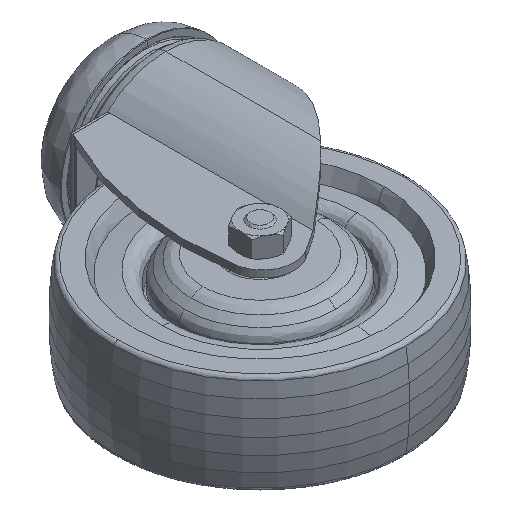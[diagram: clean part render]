
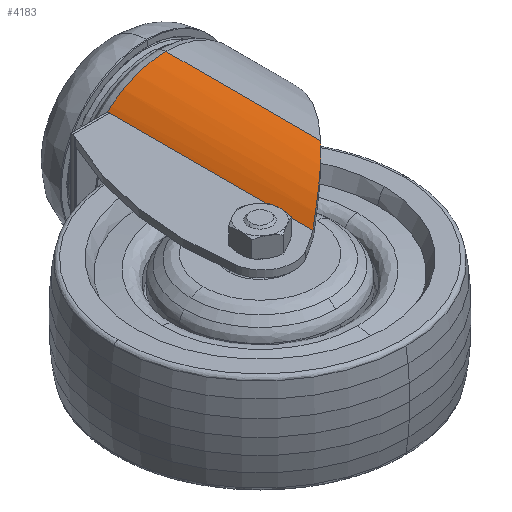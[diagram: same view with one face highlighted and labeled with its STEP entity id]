
A CAD part, isometric view. The second image highlights one B-rep face of the part: STEP entity #4183.
In plain terms, the highlighted cylindrical face has radius 21.5 mm (diameter 43 mm), a partial arc.
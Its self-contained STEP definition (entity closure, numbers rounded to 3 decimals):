
#308 = VECTOR ( 'NONE', #3678, 1000. ) ;
#364 = EDGE_CURVE ( 'NONE', #5400, #7994, #6333, .T. ) ;
#410 = AXIS2_PLACEMENT_3D ( 'NONE', #5564, #7864, #4532 ) ;
#458 = DIRECTION ( 'NONE',  ( 0., 1., 0. ) ) ;
#536 = EDGE_CURVE ( 'NONE', #3235, #2316, #9962, .T. ) ;
#539 = DIRECTION ( 'NONE',  ( 0., 0., 1. ) ) ;
#560 = CARTESIAN_POINT ( 'NONE',  ( 10.07, -12.795, -19.164 ) ) ;
#727 = CARTESIAN_POINT ( 'NONE',  ( 8.532, -13.99, -18.238 ) ) ;
#729 = CYLINDRICAL_SURFACE ( 'NONE', #3192, 21.5 ) ;
#775 = CARTESIAN_POINT ( 'NONE',  ( 5.85, -15.989, -16.273 ) ) ;
#835 = DIRECTION ( 'NONE',  ( 0., 1., 0. ) ) ;
#850 = CARTESIAN_POINT ( 'NONE',  ( 5.287, -50., 15.75 ) ) ;
#1016 = LINE ( 'NONE', #3190, #10277 ) ;
#1075 = ORIENTED_EDGE ( 'NONE', *, *, #8968, .F. ) ;
#1101 = EDGE_CURVE ( 'NONE', #9378, #8649, #7416, .T. ) ;
#1543 = CARTESIAN_POINT ( 'NONE',  ( 13.189, -10.171, -20.429 ) ) ;
#1591 = CARTESIAN_POINT ( 'NONE',  ( 6.416, -15.588, 16.8 ) ) ;
#1672 = VERTEX_POINT ( 'NONE', #4069 ) ;
#1962 = CARTESIAN_POINT ( 'NONE',  ( 19.922, -3.703, 21.5 ) ) ;
#2049 = ORIENTED_EDGE ( 'NONE', *, *, #8716, .F. ) ;
#2112 = ORIENTED_EDGE ( 'NONE', *, *, #1101, .F. ) ;
#2120 = EDGE_CURVE ( 'NONE', #2700, #1672, #1016, .T. ) ;
#2292 = CARTESIAN_POINT ( 'NONE',  ( 17.523, -6.168, 21.402 ) ) ;
#2316 = VERTEX_POINT ( 'NONE', #3506 ) ;
#2347 = CARTESIAN_POINT ( 'NONE',  ( 11.297, -11.781, 19.706 ) ) ;
#2508 = CARTESIAN_POINT ( 'NONE',  ( 10.046, -12.802, 19.11 ) ) ;
#2700 = VERTEX_POINT ( 'NONE', #9274 ) ;
#2923 = VECTOR ( 'NONE', #4151, 1000. ) ;
#2962 = EDGE_CURVE ( 'NONE', #2700, #8649, #9091, .T. ) ;
#3052 = CARTESIAN_POINT ( 'NONE',  ( 5.287, -16.388, -15.75 ) ) ;
#3172 = LINE ( 'NONE', #10635, #2923 ) ;
#3190 = CARTESIAN_POINT ( 'NONE',  ( 5.276, 35.01, -15.74 ) ) ;
#3192 = AXIS2_PLACEMENT_3D ( 'NONE', #4848, #835, #4137 ) ;
#3210 = CARTESIAN_POINT ( 'NONE',  ( 18.749, -4.94, -21.5 ) ) ;
#3235 = VERTEX_POINT ( 'NONE', #8286 ) ;
#3281 = EDGE_CURVE ( 'NONE', #9568, #5400, #7861, .T. ) ;
#3401 = VERTEX_POINT ( 'NONE', #8499 ) ;
#3506 = CARTESIAN_POINT ( 'NONE',  ( 5.287, 34.5, -15.75 ) ) ;
#3678 = DIRECTION ( 'NONE',  ( -0.732, 0., -0.681 ) ) ;
#3818 = B_SPLINE_CURVE_WITH_KNOTS ( 'NONE', 3,
 ( #8234, #3210, #7195, #5552, #8882, #4734, #1543, #8987, #560, #727, #3861, #10675, #10515, #6539, #775, #3052 ),
 .UNSPECIFIED., .F., .F.,
 ( 4, 2, 2, 2, 2, 2, 2, 4 ),
 ( 0.119, 0.125, 0.127, 0.13, 0.135, 0.136, 0.137, 0.14 ),
 .UNSPECIFIED. ) ;
#3861 = CARTESIAN_POINT ( 'NONE',  ( 8.225, -14.226, -18.043 ) ) ;
#3872 = CARTESIAN_POINT ( 'NONE',  ( 19.922, -3.703, -21.5 ) ) ;
#3939 = VECTOR ( 'NONE', #7578, 1000. ) ;
#4069 = CARTESIAN_POINT ( 'NONE',  ( 5.276, 34.5, -15.74 ) ) ;
#4131 = VECTOR ( 'NONE', #6302, 1000. ) ;
#4137 = DIRECTION ( 'NONE',  ( 0., 0., 1. ) ) ;
#4151 = DIRECTION ( 'NONE',  ( 0.732, 0., -0.681 ) ) ;
#4183 = ADVANCED_FACE ( 'NONE', ( #5722 ), #729, .T. ) ;
#4532 = DIRECTION ( 'NONE',  ( 0., 0., 1. ) ) ;
#4588 = CIRCLE ( 'NONE', #4939, 21.5 ) ;
#4652 = EDGE_CURVE ( 'NONE', #7994, #9387, #4588, .T. ) ;
#4734 = CARTESIAN_POINT ( 'NONE',  ( 13.815, -9.62, -20.624 ) ) ;
#4848 = CARTESIAN_POINT ( 'NONE',  ( 19.922, -50., 0. ) ) ;
#4897 = CARTESIAN_POINT ( 'NONE',  ( 11.932, -11.25, 19.972 ) ) ;
#4939 = AXIS2_PLACEMENT_3D ( 'NONE', #10490, #9611, #539 ) ;
#5011 = CARTESIAN_POINT ( 'NONE',  ( 15.067, -8.504, 20.982 ) ) ;
#5016 = CARTESIAN_POINT ( 'NONE',  ( 5.276, 35.01, 15.74 ) ) ;
#5328 = CARTESIAN_POINT ( 'NONE',  ( 5.287, 34.5, 15.75 ) ) ;
#5340 = LINE ( 'NONE', #8724, #10043 ) ;
#5400 = VERTEX_POINT ( 'NONE', #1962 ) ;
#5425 = ORIENTED_EDGE ( 'NONE', *, *, #364, .T. ) ;
#5467 = CARTESIAN_POINT ( 'NONE',  ( 19.922, 35.101, 21.5 ) ) ;
#5552 = CARTESIAN_POINT ( 'NONE',  ( 15.694, -7.908, -21.089 ) ) ;
#5560 = DIRECTION ( 'NONE',  ( 0., 1., 0. ) ) ;
#5564 = CARTESIAN_POINT ( 'NONE',  ( 19.922, 35.01, 0. ) ) ;
#5661 = CARTESIAN_POINT ( 'NONE',  ( 18.734, -4.956, 21.5 ) ) ;
#5719 = CARTESIAN_POINT ( 'NONE',  ( 5.287, -16.388, 15.75 ) ) ;
#5722 = FACE_OUTER_BOUND ( 'NONE', #6943, .T. ) ;
#5781 = LINE ( 'NONE', #850, #4131 ) ;
#5825 = CARTESIAN_POINT ( 'NONE',  ( 5.287, -50., -15.75 ) ) ;
#5907 = VERTEX_POINT ( 'NONE', #3872 ) ;
#6028 = ORIENTED_EDGE ( 'NONE', *, *, #3281, .T. ) ;
#6255 = CARTESIAN_POINT ( 'NONE',  ( 5.276, 34.5, 15.74 ) ) ;
#6302 = DIRECTION ( 'NONE',  ( 0., -1., 0. ) ) ;
#6333 = LINE ( 'NONE', #10524, #7734 ) ;
#6463 = DIRECTION ( 'NONE',  ( 0., -1., 0. ) ) ;
#6539 = CARTESIAN_POINT ( 'NONE',  ( 6.429, -15.57, -16.755 ) ) ;
#6836 = ORIENTED_EDGE ( 'NONE', *, *, #2120, .F. ) ;
#6943 = EDGE_LOOP ( 'NONE', ( #2049, #8914, #7130, #9485, #6836, #9247, #2112, #1075, #9384, #6028, #5425, #10304 ) ) ;
#7130 = ORIENTED_EDGE ( 'NONE', *, *, #536, .T. ) ;
#7195 = CARTESIAN_POINT ( 'NONE',  ( 17.546, -6.146, -21.405 ) ) ;
#7416 = LINE ( 'NONE', #5016, #3939 ) ;
#7522 = DIRECTION ( 'NONE',  ( 0., 1., 0. ) ) ;
#7578 = DIRECTION ( 'NONE',  ( 0., 1., 0. ) ) ;
#7734 = VECTOR ( 'NONE', #5560, 1000. ) ;
#7861 = B_SPLINE_CURVE_WITH_KNOTS ( 'NONE', 3,
 ( #5719, #1591, #8184, #9955, #2508, #2347, #4897, #9741, #5011, #2292, #5661, #8232 ),
 .UNSPECIFIED., .F., .F.,
 ( 4, 2, 2, 2, 2, 4 ),
 ( 0., 0.005, 0.008, 0.01, 0.015, 0.021 ),
 .UNSPECIFIED. ) ;
#7864 = DIRECTION ( 'NONE',  ( 0., 1., 0. ) ) ;
#7994 = VERTEX_POINT ( 'NONE', #5467 ) ;
#8184 = CARTESIAN_POINT ( 'NONE',  ( 7.6, -14.714, 17.676 ) ) ;
#8232 = CARTESIAN_POINT ( 'NONE',  ( 19.922, -3.703, 21.5 ) ) ;
#8234 = CARTESIAN_POINT ( 'NONE',  ( 19.922, -3.703, -21.5 ) ) ;
#8251 = CARTESIAN_POINT ( 'NONE',  ( 5.287, -16.388, 15.75 ) ) ;
#8286 = CARTESIAN_POINT ( 'NONE',  ( 5.287, -16.388, -15.75 ) ) ;
#8499 = CARTESIAN_POINT ( 'NONE',  ( 5.287, 34.5, 15.75 ) ) ;
#8649 = VERTEX_POINT ( 'NONE', #10631 ) ;
#8716 = EDGE_CURVE ( 'NONE', #5907, #9387, #5340, .T. ) ;
#8724 = CARTESIAN_POINT ( 'NONE',  ( 19.922, -50., -21.5 ) ) ;
#8749 = CARTESIAN_POINT ( 'NONE',  ( 19.922, 35.101, -21.5 ) ) ;
#8877 = EDGE_CURVE ( 'NONE', #5907, #3235, #3818, .T. ) ;
#8882 = CARTESIAN_POINT ( 'NONE',  ( 15.066, -8.489, -20.955 ) ) ;
#8914 = ORIENTED_EDGE ( 'NONE', *, *, #8877, .T. ) ;
#8968 = EDGE_CURVE ( 'NONE', #3401, #9378, #9463, .T. ) ;
#8987 = CARTESIAN_POINT ( 'NONE',  ( 11.315, -11.78, -19.747 ) ) ;
#9091 = CIRCLE ( 'NONE', #410, 21.5 ) ;
#9247 = ORIENTED_EDGE ( 'NONE', *, *, #2962, .T. ) ;
#9274 = CARTESIAN_POINT ( 'NONE',  ( 5.276, 35.01, -15.74 ) ) ;
#9378 = VERTEX_POINT ( 'NONE', #6255 ) ;
#9384 = ORIENTED_EDGE ( 'NONE', *, *, #9496, .T. ) ;
#9387 = VERTEX_POINT ( 'NONE', #8749 ) ;
#9463 = LINE ( 'NONE', #5328, #308 ) ;
#9485 = ORIENTED_EDGE ( 'NONE', *, *, #9549, .F. ) ;
#9496 = EDGE_CURVE ( 'NONE', #3401, #9568, #5781, .T. ) ;
#9549 = EDGE_CURVE ( 'NONE', #1672, #2316, #3172, .T. ) ;
#9568 = VERTEX_POINT ( 'NONE', #8251 ) ;
#9611 = DIRECTION ( 'NONE',  ( 0., -1., 0. ) ) ;
#9741 = CARTESIAN_POINT ( 'NONE',  ( 13.821, -9.628, 20.66 ) ) ;
#9955 = CARTESIAN_POINT ( 'NONE',  ( 9.428, -13.294, 18.779 ) ) ;
#9962 = LINE ( 'NONE', #5825, #10523 ) ;
#10043 = VECTOR ( 'NONE', #458, 1000. ) ;
#10277 = VECTOR ( 'NONE', #6463, 1000. ) ;
#10304 = ORIENTED_EDGE ( 'NONE', *, *, #4652, .T. ) ;
#10490 = CARTESIAN_POINT ( 'NONE',  ( 19.922, 35.101, 0. ) ) ;
#10515 = CARTESIAN_POINT ( 'NONE',  ( 7.319, -14.911, -17.422 ) ) ;
#10523 = VECTOR ( 'NONE', #7522, 1000. ) ;
#10524 = CARTESIAN_POINT ( 'NONE',  ( 19.922, -50., 21.5 ) ) ;
#10631 = CARTESIAN_POINT ( 'NONE',  ( 5.276, 35.01, 15.74 ) ) ;
#10635 = CARTESIAN_POINT ( 'NONE',  ( 5.276, 34.5, -15.74 ) ) ;
#10675 = CARTESIAN_POINT ( 'NONE',  ( 7.619, -14.686, -17.635 ) ) ;
